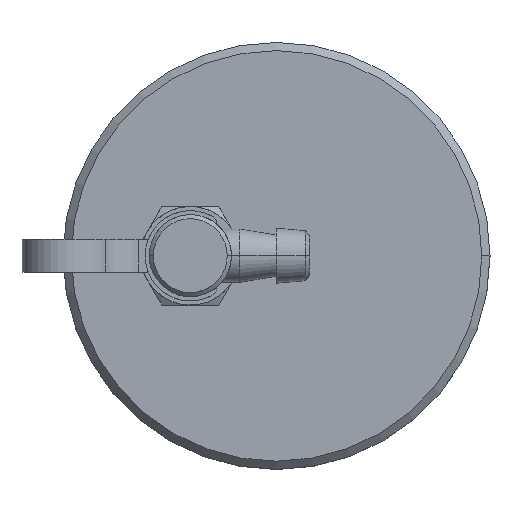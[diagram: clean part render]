
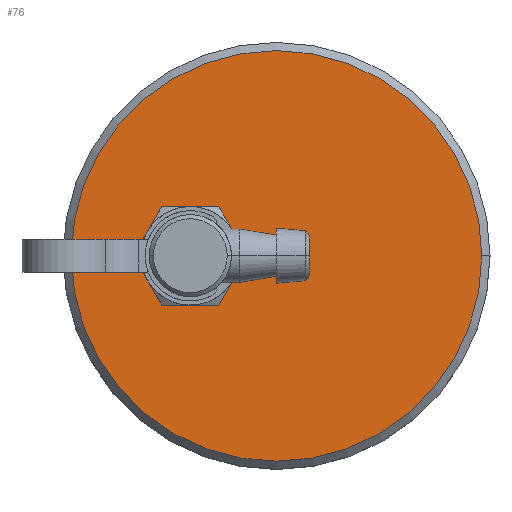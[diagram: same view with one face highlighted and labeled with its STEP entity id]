
A CAD part, top view. The second image highlights one B-rep face of the part: STEP entity #76.
In plain terms, the highlighted planar face has unit normal (0, 0, 1).
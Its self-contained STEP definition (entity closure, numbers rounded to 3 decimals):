
#76=ADVANCED_FACE('',(#488,#489),#487,.T.);
#487=PLANE('',#1182);
#488=FACE_OUTER_BOUND('',#1183,.T.);
#489=FACE_BOUND('',#1184,.T.);
#1179=CARTESIAN_POINT('',(-32.5,-51.962,83.));
#1180=DIRECTION('',(0.,0.,1.));
#1181=DIRECTION('',(1.,0.,0.));
#1182=AXIS2_PLACEMENT_3D('',#1179,#1180,#1181);
#1183=EDGE_LOOP('',(#1753,#1754));
#1184=EDGE_LOOP('',(#1755,#1756,#1757,#1758,#1759,#1760,#1761,#1762,#1763,#1764,#1765,#1766));
#1753=ORIENTED_EDGE('',*,*,#2113,.F.);
#1754=ORIENTED_EDGE('',*,*,#2114,.F.);
#1755=ORIENTED_EDGE('',*,*,#2110,.T.);
#1756=ORIENTED_EDGE('',*,*,#2019,.T.);
#1757=ORIENTED_EDGE('',*,*,#2102,.T.);
#1758=ORIENTED_EDGE('',*,*,#2115,.T.);
#1759=ORIENTED_EDGE('',*,*,#2107,.T.);
#1760=ORIENTED_EDGE('',*,*,#2013,.T.);
#1761=ORIENTED_EDGE('',*,*,#2111,.T.);
#1762=ORIENTED_EDGE('',*,*,#2035,.T.);
#1763=ORIENTED_EDGE('',*,*,#2112,.T.);
#1764=ORIENTED_EDGE('',*,*,#2026,.T.);
#1765=ORIENTED_EDGE('',*,*,#2109,.T.);
#1766=ORIENTED_EDGE('',*,*,#2030,.T.);
#2013=EDGE_CURVE('',#2375,#2368,#2376,.T.);
#2019=EDGE_CURVE('',#2416,#2409,#2417,.T.);
#2026=EDGE_CURVE('',#2464,#2457,#2465,.T.);
#2030=EDGE_CURVE('',#2490,#2483,#2491,.T.);
#2035=EDGE_CURVE('',#2522,#2515,#2523,.T.);
#2102=EDGE_CURVE('',#2409,#2966,#2973,.T.);
#2107=EDGE_CURVE('',#3004,#2375,#3005,.T.);
#2109=EDGE_CURVE('',#2457,#2490,#3017,.T.);
#2110=EDGE_CURVE('',#2483,#2416,#3023,.T.);
#2111=EDGE_CURVE('',#2368,#2522,#3029,.T.);
#2112=EDGE_CURVE('',#2515,#2464,#3035,.T.);
#2113=EDGE_CURVE('',#3041,#3042,#3043,.T.);
#2114=EDGE_CURVE('',#3042,#3041,#3049,.T.);
#2115=EDGE_CURVE('',#2966,#3004,#3055,.T.);
#2368=VERTEX_POINT('',#3722);
#2375=VERTEX_POINT('',#3729);
#2376=LINE('',#3730,#3731);
#2409=VERTEX_POINT('',#3756);
#2416=VERTEX_POINT('',#3763);
#2417=LINE('',#3764,#3765);
#2457=VERTEX_POINT('',#3795);
#2464=VERTEX_POINT('',#3802);
#2465=LINE('',#3803,#3804);
#2483=VERTEX_POINT('',#3818);
#2490=VERTEX_POINT('',#3825);
#2491=LINE('',#3826,#3827);
#2515=VERTEX_POINT('',#3849);
#2522=VERTEX_POINT('',#3856);
#2523=LINE('',#3857,#3858);
#2966=VERTEX_POINT('',#4152);
#2973=CIRCLE('',#4162,6.);
#3004=VERTEX_POINT('',#4180);
#3005=CIRCLE('',#4184,6.);
#3017=CIRCLE('',#4194,6.);
#3023=CIRCLE('',#4198,6.);
#3029=CIRCLE('',#4202,6.);
#3035=CIRCLE('',#4206,6.);
#3041=VERTEX_POINT('',#4207);
#3042=VERTEX_POINT('',#4208);
#3043=CIRCLE('',#4212,25.);
#3049=CIRCLE('',#4216,25.);
#3055=LINE('',#4217,#4218);
#3722=CARTESIAN_POINT('',(-10.463,6.,83.));
#3729=CARTESIAN_POINT('',(-10.537,6.,83.));
#3730=CARTESIAN_POINT('',(-10.537,6.,83.));
#3731=VECTOR('',#3732,0.075);
#3732=DIRECTION('',(1.,0.,0.));
#3756=CARTESIAN_POINT('',(-15.723,-2.953,83.));
#3763=CARTESIAN_POINT('',(-15.669,-3.047,83.));
#3764=CARTESIAN_POINT('',(-15.669,-3.047,83.));
#3765=VECTOR('',#3766,0.109);
#3766=DIRECTION('',(-0.5,0.866,0.));
#3795=CARTESIAN_POINT('',(-5.331,-3.047,83.));
#3802=CARTESIAN_POINT('',(-5.277,-2.953,83.));
#3803=CARTESIAN_POINT('',(-5.277,-2.953,83.));
#3804=VECTOR('',#3805,0.109);
#3805=DIRECTION('',(-0.5,-0.866,0.));
#3818=CARTESIAN_POINT('',(-10.537,-6.,83.));
#3825=CARTESIAN_POINT('',(-10.463,-6.,83.));
#3826=CARTESIAN_POINT('',(-10.463,-6.,83.));
#3827=VECTOR('',#3828,0.075);
#3828=DIRECTION('',(-1.,0.,0.));
#3849=CARTESIAN_POINT('',(-5.277,2.953,83.));
#3856=CARTESIAN_POINT('',(-5.331,3.047,83.));
#3857=CARTESIAN_POINT('',(-5.331,3.047,83.));
#3858=VECTOR('',#3859,0.109);
#3859=DIRECTION('',(0.5,-0.866,0.));
#4152=CARTESIAN_POINT('',(-15.723,2.953,83.));
#4159=CARTESIAN_POINT('',(-10.5,0.,83.));
#4160=DIRECTION('',(0.,0.,-1.));
#4161=DIRECTION('',(1.,0.,0.));
#4162=AXIS2_PLACEMENT_3D('',#4159,#4160,#4161);
#4180=CARTESIAN_POINT('',(-15.669,3.047,83.));
#4181=CARTESIAN_POINT('',(-10.5,0.,83.));
#4182=DIRECTION('',(0.,0.,-1.));
#4183=DIRECTION('',(1.,0.,0.));
#4184=AXIS2_PLACEMENT_3D('',#4181,#4182,#4183);
#4191=CARTESIAN_POINT('',(-10.5,0.,83.));
#4192=DIRECTION('',(0.,0.,-1.));
#4193=DIRECTION('',(1.,0.,0.));
#4194=AXIS2_PLACEMENT_3D('',#4191,#4192,#4193);
#4195=CARTESIAN_POINT('',(-10.5,0.,83.));
#4196=DIRECTION('',(0.,0.,-1.));
#4197=DIRECTION('',(1.,0.,0.));
#4198=AXIS2_PLACEMENT_3D('',#4195,#4196,#4197);
#4199=CARTESIAN_POINT('',(-10.5,0.,83.));
#4200=DIRECTION('',(0.,0.,-1.));
#4201=DIRECTION('',(1.,0.,0.));
#4202=AXIS2_PLACEMENT_3D('',#4199,#4200,#4201);
#4203=CARTESIAN_POINT('',(-10.5,0.,83.));
#4204=DIRECTION('',(0.,0.,-1.));
#4205=DIRECTION('',(0.871,0.492,0.));
#4206=AXIS2_PLACEMENT_3D('',#4203,#4204,#4205);
#4207=CARTESIAN_POINT('',(25.,0.,83.));
#4208=CARTESIAN_POINT('',(-25.,0.,83.));
#4209=CARTESIAN_POINT('',(0.,0.,83.));
#4210=DIRECTION('',(0.,0.,-1.));
#4211=DIRECTION('',(-1.,0.,0.));
#4212=AXIS2_PLACEMENT_3D('',#4209,#4210,#4211);
#4213=CARTESIAN_POINT('',(0.,0.,83.));
#4214=DIRECTION('',(0.,0.,-1.));
#4215=DIRECTION('',(-1.,0.,0.));
#4216=AXIS2_PLACEMENT_3D('',#4213,#4214,#4215);
#4217=CARTESIAN_POINT('',(-15.723,2.953,83.));
#4218=VECTOR('',#4219,0.109);
#4219=DIRECTION('',(0.5,0.866,0.));
